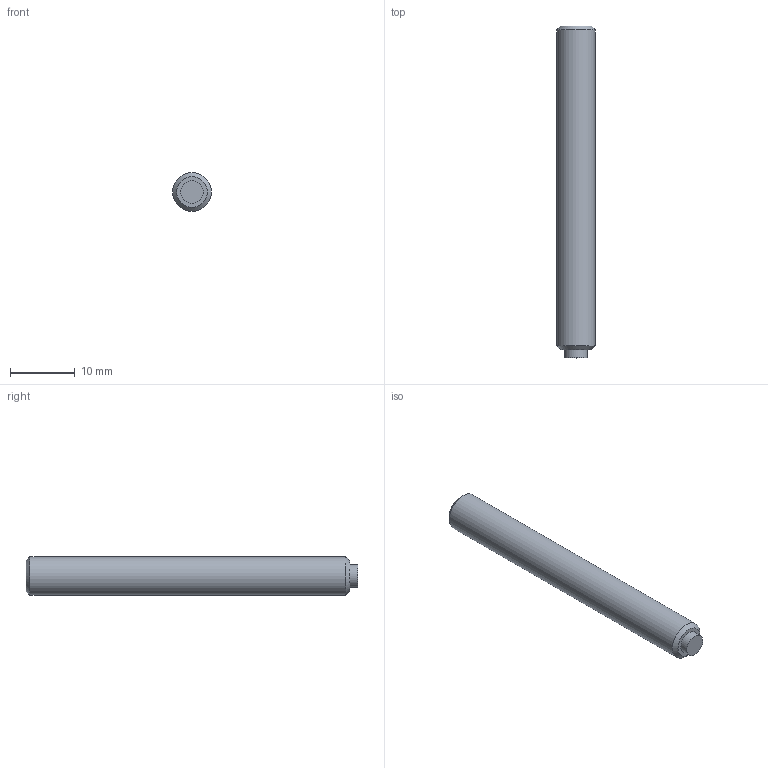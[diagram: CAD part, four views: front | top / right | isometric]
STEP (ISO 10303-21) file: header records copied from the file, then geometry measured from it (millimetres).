
FILE_DESCRIPTION( ( 'STEP AP203' ), '1' );
FILE_NAME( 'C:/Temp/Ganter_Step_05_03_2020/data/3_2/gn913_3/Grub screw GN 913.3-M6-50-KU.stp', '2020-03-13T05:35:37', ( 'License CC BY-ND 4.0' ), ( 'CADENAS' ), ' ', 'PARTsolutions', ' ' );
FILE_SCHEMA( ( 'CONFIG_CONTROL_DESIGN' ) );
Length unit declared in the file: millimetre
Products named in the file (1): _Grub screw GN 913.3-M6-50-KU
Bounding box: 6 x 51.3 x 6 mm (x, y, z)
Volume: 1392.3 mm3; surface area: 1035.2 mm2
Topology: 1 solids, 1 shells, 14 faces, 28 edges, 18 vertices
Faces by surface type: plane 10, cylinder 2, cone 2
Full cylindrical faces by diameter (mm): 3.5 x1, 6 x1
Entity records: 386 total; most frequent: DIRECTION 60, CARTESIAN_POINT 57, ORIENTED_EDGE 48, EDGE_CURVE 24, AXIS2_PLACEMENT_3D 21, EDGE_LOOP 20, VERTEX_POINT 18, LINE 18
